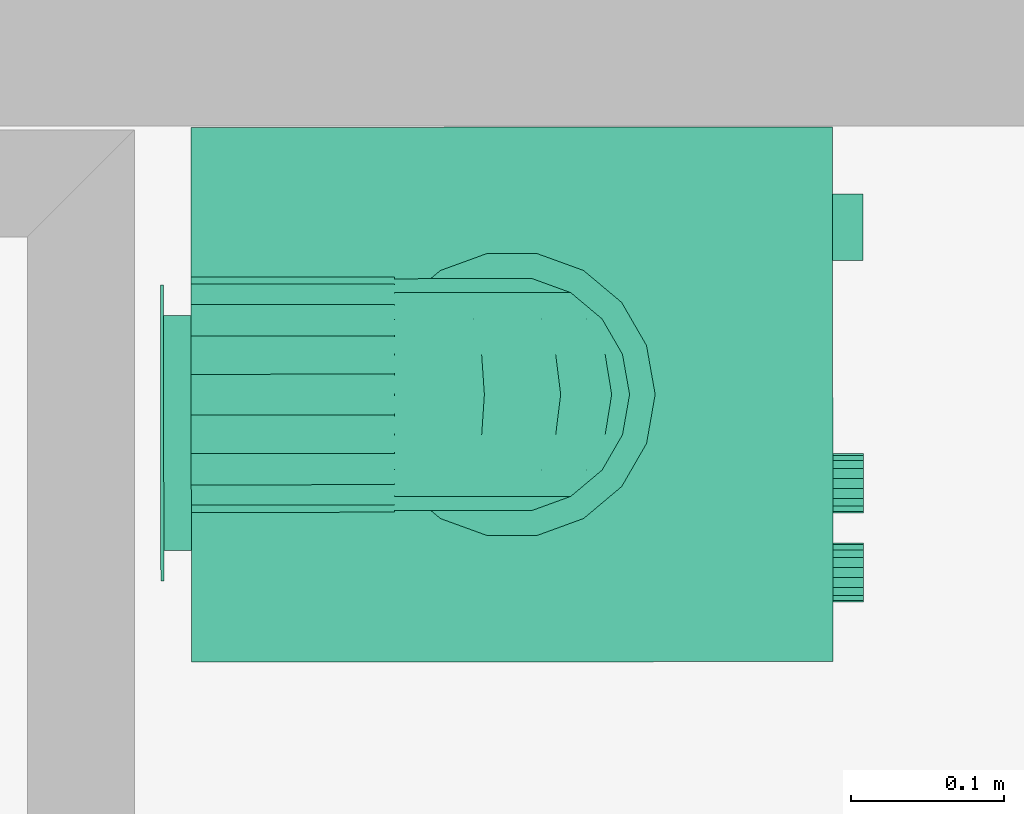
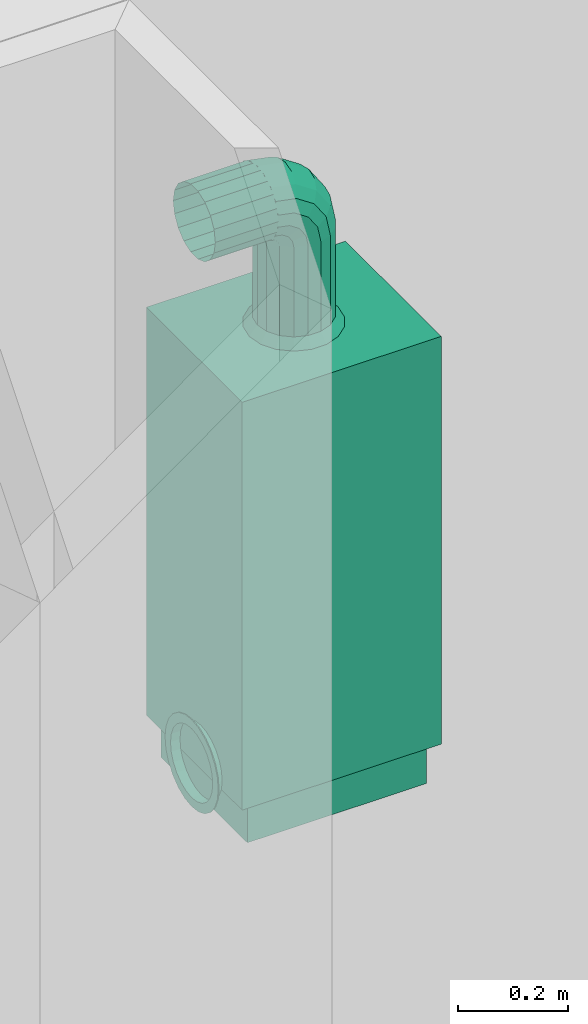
# One storey, part 124 of 171: 1 distribution element.
"""IFC2X3 building model written with IfcOpenShell, lengths in millimetres."""

from ifc_helpers import new_model, entity, si_unit, converted_unit, derived_unit, money_unit, direction, frame, origin_with_axes, place, context, subcontext, project, spatial, open_shell, faceted_brep, surface_model, source, transform, mapped, type_object, element, save


model = new_model("IFC2X3")

# Units and contexts
model_context = context("Model", 3, precision=0.01, world=origin_with_axes(), true_north=direction((0.0, 1.0)))
body_context = subcontext(model_context, "Body", "Model", "MODEL_VIEW")
ifc_project = project(units=[si_unit("LENGTHUNIT", "METRE", prefix="MILLI"), si_unit("AREAUNIT", "SQUARE_METRE"), si_unit("VOLUMEUNIT", "CUBIC_METRE"), converted_unit("PLANEANGLEUNIT", "DEGREE", entity("IfcPlaneAngleMeasure", 0.0174532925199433), si_unit("PLANEANGLEUNIT", "RADIAN"), dimensions=[0, 0, 0, 0, 0, 0, 0]), money_unit("USD"), converted_unit("TIMEUNIT", "Year", entity("IfcTimeMeasure", 31557600.0), si_unit("TIMEUNIT", "SECOND"), dimensions=[0, 0, 1, 0, 0, 0, 0]), si_unit("MASSUNIT", "GRAM", prefix="KILO"), si_unit("THERMODYNAMICTEMPERATUREUNIT", "DEGREE_CELSIUS"), si_unit("LUMINOUSINTENSITYUNIT", "LUMEN"), si_unit("ENERGYUNIT", "JOULE", prefix="MEGA"), derived_unit("THERMALCONDUCTANCEUNIT", [(si_unit("POWERUNIT", "WATT"), 1), (si_unit("LENGTHUNIT", "METRE"), -1), (si_unit("THERMODYNAMICTEMPERATUREUNIT", "KELVIN"), -1)]), derived_unit("SPECIFICHEATCAPACITYUNIT", [(si_unit("ENERGYUNIT", "JOULE"), 1), (si_unit("MASSUNIT", "GRAM", prefix="KILO"), -1), (si_unit("THERMODYNAMICTEMPERATUREUNIT", "KELVIN"), -1)]), derived_unit("MASSDENSITYUNIT", [(si_unit("MASSUNIT", "GRAM", prefix="KILO"), 1), (si_unit("VOLUMEUNIT", "CUBIC_METRE"), -1)])], contexts=[model_context])

# Site, building, storey
site_placement = place(None, origin_with_axes())
site = spatial("IfcSite", under=ifc_project, at=site_placement, Name="Site", CompositionType="ELEMENT")
building_placement = place(site_placement, origin_with_axes())
building = spatial("IfcBuilding", under=site, at=building_placement, Name="Bâtiment", CompositionType="ELEMENT")
storey_placement = place(building_placement, frame((0.0, 0.0, 3000.0), z_axis=(0.0, 0.0, 1.0), x_axis=(1.0, 0.0, 0.0)))
storey = spatial("IfcBuildingStorey", under=building, at=storey_placement, Name="rdc", CompositionType="ELEMENT", Elevation=3000.0)

# Distribution element
distribution_element_type = type_object("IfcDistributionElementType", Name="Chaudière à gaz 27")
shared_shape = source(origin_with_axes(), body_context, "Body", "SurfaceModel", [
    surface_model("IfcShellBasedSurfaceModel", [(-200.0, 420.0, 34.90909090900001), (-200.0, 438.0, 34.90909090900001), (-180.0709335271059, 438.0, 37.53280228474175), (-180.0709335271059, 420.0, 37.53280228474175), (-219.9290664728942, 420.0, 37.53280228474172), (-219.9290664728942, 438.0, 37.53280228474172), (-161.5, 438.0, 45.22513481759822), (-161.5, 420.0, 45.22513481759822), (-238.5000000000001, 420.0, 45.22513481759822), (-238.5000000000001, 438.0, 45.22513481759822), (-145.5527778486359, 438.0, 57.46186875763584), (-145.5527778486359, 420.0, 57.46186875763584), (-254.4472221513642, 420.0, 57.46186875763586), (-254.4472221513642, 438.0, 57.46186875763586), (-133.3160439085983, 438.0, 73.409090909), (-133.3160439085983, 420.0, 73.409090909), (-266.6839560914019, 420.0, 73.40909090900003), (-266.6839560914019, 438.0, 73.40909090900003), (-125.6237113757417, 438.0, 91.9800244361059), (-125.6237113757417, 420.0, 91.9800244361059), (-274.3762886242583, 420.0, 91.98002443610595), (-274.3762886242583, 438.0, 91.98002443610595), (-123.0, 438.0, 111.909090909), (-123.0, 420.0, 111.909090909), (-277.0, 420.0, 111.909090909), (-277.0, 438.0, 111.909090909), (-125.6237113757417, 438.0, 131.8381573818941), (-125.6237113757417, 420.0, 131.8381573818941), (-274.3762886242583, 420.0, 131.8381573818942), (-274.3762886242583, 438.0, 131.8381573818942), (-133.3160439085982, 438.0, 150.409090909), (-133.3160439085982, 420.0, 150.409090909), (-266.6839560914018, 420.0, 150.4090909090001), (-266.6839560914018, 438.0, 150.4090909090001), (-145.5527778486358, 438.0, 166.3563130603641), (-145.5527778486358, 420.0, 166.3563130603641), (-254.4472221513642, 420.0, 166.3563130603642), (-254.4472221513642, 438.0, 166.3563130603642), (-161.5, 438.0, 178.5930470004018), (-161.5, 420.0, 178.5930470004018), (-238.5, 420.0, 178.5930470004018), (-238.5, 438.0, 178.5930470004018), (-180.0709335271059, 438.0, 186.2853795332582), (-180.0709335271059, 420.0, 186.2853795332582), (-219.929066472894, 420.0, 186.2853795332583), (-219.929066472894, 438.0, 186.2853795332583), (-200.0, 438.0, 188.909090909), (-200.0, 420.0, 188.909090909)], [open_shell([[[0, 1, 2, 3]], [[4, 5, 1, 0]], [[3, 2, 6, 7]], [[8, 9, 5, 4]], [[7, 6, 10, 11]], [[12, 13, 9, 8]], [[11, 10, 14, 15]], [[16, 17, 13, 12]], [[15, 14, 18, 19]], [[20, 21, 17, 16]], [[19, 18, 22, 23]], [[24, 25, 21, 20]], [[23, 22, 26, 27]], [[28, 29, 25, 24]], [[27, 26, 30, 31]], [[32, 33, 29, 28]], [[31, 30, 34, 35]], [[36, 37, 33, 32]], [[35, 34, 38, 39]], [[40, 41, 37, 36]], [[39, 38, 42, 43]], [[44, 45, 41, 40]], [[43, 42, 46, 47]], [[47, 46, 45, 44]]])]),
    faceted_brep([(-200.0, 438.0, 14.909090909), (-200.0, 440.0, 14.909090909), (-174.8945526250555, 440.0, 18.21428575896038), (-174.8945526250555, 438.0, 18.21428575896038), (-225.1054473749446, 438.0, 18.21428575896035), (-225.1054473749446, 440.0, 18.21428575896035), (-248.5000000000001, 440.0, 27.90462674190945), (-268.5893577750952, 440.0, 43.31973313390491), (-284.0044641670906, 440.0, 63.40909090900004), (-293.6948051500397, 440.0, 86.80364353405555), (-297.0000000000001, 440.0, 111.909090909), (-293.6948051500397, 440.0, 137.0145382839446), (-284.0044641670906, 440.0, 160.4090909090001), (-268.5893577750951, 440.0, 180.4984486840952), (-248.5, 440.0, 195.9135550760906), (-225.1054473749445, 440.0, 205.6038960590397), (-199.9999999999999, 440.0, 208.909090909), (-174.8945526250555, 440.0, 205.6038960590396), (-151.5, 440.0, 195.9135550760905), (-131.4106422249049, 440.0, 180.4984486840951), (-115.9955358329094, 440.0, 160.409090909), (-106.3051948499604, 440.0, 137.0145382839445), (-103.0, 440.0, 111.909090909), (-106.3051948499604, 440.0, 86.80364353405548), (-115.9955358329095, 440.0, 63.40909090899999), (-131.4106422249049, 440.0, 43.31973313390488), (-151.5, 440.0, 27.90462674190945), (-200.0, 440.0, 34.90909090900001), (-180.0709335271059, 440.0, 37.53280228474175), (-161.5, 440.0, 45.22513481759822), (-145.5527778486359, 440.0, 57.46186875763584), (-133.3160439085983, 440.0, 73.409090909), (-125.6237113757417, 440.0, 91.9800244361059), (-123.0, 440.0, 111.909090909), (-125.6237113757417, 440.0, 131.8381573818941), (-133.3160439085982, 440.0, 150.409090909), (-145.5527778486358, 440.0, 166.3563130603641), (-161.5, 440.0, 178.5930470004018), (-180.0709335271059, 440.0, 186.2853795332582), (-200.0, 440.0, 188.909090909), (-219.929066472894, 440.0, 186.2853795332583), (-238.5, 440.0, 178.5930470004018), (-254.4472221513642, 440.0, 166.3563130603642), (-266.6839560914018, 440.0, 150.4090909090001), (-274.3762886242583, 440.0, 131.8381573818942), (-277.0, 440.0, 111.909090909), (-274.3762886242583, 440.0, 91.98002443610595), (-266.6839560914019, 440.0, 73.40909090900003), (-254.4472221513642, 440.0, 57.46186875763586), (-238.5000000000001, 440.0, 45.22513481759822), (-219.9290664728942, 440.0, 37.53280228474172), (-151.5, 438.0, 27.90462674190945), (-131.4106422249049, 438.0, 43.31973313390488), (-115.9955358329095, 438.0, 63.40909090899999), (-106.3051948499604, 438.0, 86.80364353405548), (-103.0, 438.0, 111.909090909), (-106.3051948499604, 438.0, 137.0145382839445), (-115.9955358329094, 438.0, 160.409090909), (-131.4106422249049, 438.0, 180.4984486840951), (-151.5, 438.0, 195.9135550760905), (-174.8945526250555, 438.0, 205.6038960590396), (-199.9999999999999, 438.0, 208.909090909), (-225.1054473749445, 438.0, 205.6038960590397), (-248.5, 438.0, 195.9135550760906), (-268.5893577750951, 438.0, 180.4984486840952), (-284.0044641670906, 438.0, 160.4090909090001), (-293.6948051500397, 438.0, 137.0145382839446), (-297.0000000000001, 438.0, 111.909090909), (-293.6948051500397, 438.0, 86.80364353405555), (-284.0044641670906, 438.0, 63.40909090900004), (-268.5893577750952, 438.0, 43.31973313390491), (-248.5000000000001, 438.0, 27.90462674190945), (-200.0, 438.0, 34.90909090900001), (-219.9290664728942, 438.0, 37.53280228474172), (-238.5000000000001, 438.0, 45.22513481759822), (-254.4472221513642, 438.0, 57.46186875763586), (-266.6839560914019, 438.0, 73.40909090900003), (-274.3762886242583, 438.0, 91.98002443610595), (-277.0, 438.0, 111.909090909), (-274.3762886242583, 438.0, 131.8381573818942), (-266.6839560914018, 438.0, 150.4090909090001), (-254.4472221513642, 438.0, 166.3563130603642), (-238.5, 438.0, 178.5930470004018), (-219.929066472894, 438.0, 186.2853795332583), (-200.0, 438.0, 188.909090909), (-180.0709335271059, 438.0, 186.2853795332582), (-161.5, 438.0, 178.5930470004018), (-145.5527778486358, 438.0, 166.3563130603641), (-133.3160439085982, 438.0, 150.409090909), (-125.6237113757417, 438.0, 131.8381573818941), (-123.0, 438.0, 111.909090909), (-125.6237113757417, 438.0, 91.9800244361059), (-133.3160439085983, 438.0, 73.409090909), (-145.5527778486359, 438.0, 57.46186875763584), (-161.5, 438.0, 45.22513481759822), (-180.0709335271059, 438.0, 37.53280228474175)], [[[0, 1, 2, 3]], [[4, 5, 1, 0]], [[1, 5, 6, 7, 8, 9, 10, 11, 12, 13, 14, 15, 16, 17, 18, 19, 20, 21, 22, 23, 24, 25, 26, 2], [27, 28, 29, 30, 31, 32, 33, 34, 35, 36, 37, 38, 39, 40, 41, 42, 43, 44, 45, 46, 47, 48, 49, 50]], [[3, 2, 26, 51]], [[0, 3, 51, 52, 53, 54, 55, 56, 57, 58, 59, 60, 61, 62, 63, 64, 65, 66, 67, 68, 69, 70, 71, 4], [72, 73, 74, 75, 76, 77, 78, 79, 80, 81, 82, 83, 84, 85, 86, 87, 88, 89, 90, 91, 92, 93, 94, 95]], [[71, 6, 5, 4]], [[70, 7, 6, 71]], [[69, 8, 7, 70]], [[68, 9, 8, 69]], [[67, 10, 9, 68]], [[66, 11, 10, 67]], [[65, 12, 11, 66]], [[64, 13, 12, 65]], [[63, 14, 13, 64]], [[62, 15, 14, 63]], [[61, 16, 15, 62]], [[60, 17, 16, 61]], [[59, 18, 17, 60]], [[58, 19, 18, 59]], [[57, 20, 19, 58]], [[56, 21, 20, 57]], [[55, 22, 21, 56]], [[54, 23, 22, 55]], [[53, 24, 23, 54]], [[52, 25, 24, 53]], [[51, 26, 25, 52]], [[95, 28, 27, 72]], [[94, 29, 28, 95]], [[93, 30, 29, 94]], [[92, 31, 30, 93]], [[91, 32, 31, 92]], [[90, 33, 32, 91]], [[89, 34, 33, 90]], [[88, 35, 34, 89]], [[87, 36, 35, 88]], [[86, 37, 36, 87]], [[85, 38, 37, 86]], [[84, 39, 38, 85]], [[83, 40, 39, 84]], [[82, 41, 40, 83]], [[81, 42, 41, 82]], [[80, 43, 42, 81]], [[79, 44, 43, 80]], [[78, 45, 44, 79]], [[77, 46, 45, 78]], [[76, 47, 46, 77]], [[75, 48, 47, 76]], [[74, 49, 48, 75]], [[73, 50, 49, 74]], [[72, 27, 50, 73]]]),
    faceted_brep([(-332.5, 21.0, 0.0), (-332.5, 399.0, 0.0), (-17.5, 399.0, 0.0), (-17.5, 21.0, 0.0), (-332.5, 21.0, 90.9090909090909), (-332.5, 399.0, 90.9090909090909), (-17.5, 399.0, 90.9090909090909), (-17.5, 21.0, 90.9090909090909)], [[[0, 1, 2, 3]], [[0, 4, 5, 1]], [[1, 5, 6, 2]], [[2, 6, 7, 3]], [[3, 7, 4, 0]], [[7, 6, 5, 4]]]),
    faceted_brep([(0.0, 420.0, 90.9090909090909), (-350.0, 420.0, 90.90909090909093), (-349.9999999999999, 420.0, 1000.0), (0.0, 420.0, 1000.0), (0.0, 0.0, 90.9090909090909), (-350.0, 0.0, 90.90909090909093), (-349.9999999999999, 0.0, 818.1818181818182), (-349.9999999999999, 21.0, 818.1818181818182), (-349.9999999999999, 21.0, 1000.0), (0.0, 21.0, 1000.0), (0.0, 21.0, 818.1818181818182), (0.0, 0.0, 818.1818181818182)], [[[0, 1, 2, 3]], [[4, 5, 1, 0]], [[1, 5, 6, 7, 8, 2]], [[3, 2, 8, 9]], [[0, 3, 9, 10, 11, 4]], [[11, 6, 5, 4]], [[10, 7, 6, 11]], [[9, 8, 7, 10]]]),
    faceted_brep([(-350.0, 0.0, 818.1818181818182), (-350.0, 21.0, 818.1818181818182), (0.0, 21.0, 818.1818181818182), (0.0, 0.0, 818.1818181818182), (-350.0, 0.0, 1000.0), (-350.0, 21.0, 1000.0), (0.0, 21.0, 1000.0), (0.0, 0.0, 1000.0)], [[[0, 1, 2, 3]], [[0, 4, 5, 1]], [[1, 5, 6, 2]], [[2, 6, 7, 3]], [[3, 7, 4, 0]], [[7, 6, 5, 4]]]),
    faceted_brep([(-251.6051342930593, 0.0, 902.4405174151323), (-252.7777777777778, 0.0, 909.0909090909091), (-251.6051342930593, 0.0, 915.741300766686), (-248.2286419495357, 0.0, 921.5895570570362), (-243.0555555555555, 0.0, 925.9302919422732), (-236.709825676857, 0.0, 928.2399487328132), (-229.9568409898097, 0.0, 928.2399487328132), (-223.6111111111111, 0.0, 925.9302919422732), (-218.438024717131, 0.0, 921.5895570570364), (-215.0615323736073, 0.0, 915.741300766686), (-213.8888888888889, 0.0, 909.0909090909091), (-215.0615323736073, 0.0, 902.4405174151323), (-218.438024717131, 0.0, 896.5922611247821), (-223.6111111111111, 0.0, 892.2515262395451), (-229.9568409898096, 0.0, 889.9418694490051), (-236.709825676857, 0.0, 889.9418694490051), (-243.0555555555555, 0.0, 892.2515262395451), (-248.2286419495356, 0.0, 896.592261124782), (-251.6051342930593, -19.99999999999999, 902.4405174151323), (-252.7777777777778, -19.99999999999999, 909.0909090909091), (-251.6051342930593, -19.99999999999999, 915.741300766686), (-248.2286419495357, -19.99999999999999, 921.5895570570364), (-243.0555555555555, -19.99999999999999, 925.9302919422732), (-236.709825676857, -19.99999999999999, 928.2399487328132), (-229.9568409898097, -19.99999999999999, 928.2399487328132), (-223.6111111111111, -19.99999999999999, 925.9302919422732), (-218.438024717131, -19.99999999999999, 921.5895570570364), (-215.0615323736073, -19.99999999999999, 915.741300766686), (-213.8888888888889, -19.99999999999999, 909.0909090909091), (-215.0615323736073, -19.99999999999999, 902.4405174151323), (-218.438024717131, -19.99999999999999, 896.5922611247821), (-223.6111111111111, -19.99999999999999, 892.2515262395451), (-229.9568409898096, -19.99999999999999, 889.9418694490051), (-236.709825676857, -19.99999999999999, 889.9418694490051), (-243.0555555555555, -19.99999999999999, 892.2515262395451), (-248.2286419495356, -19.99999999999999, 896.592261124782)], [[[0, 1, 2, 3, 4, 5, 6, 7, 8, 9, 10, 11, 12, 13, 14, 15, 16, 17]], [[0, 18, 19, 1]], [[1, 19, 20, 2]], [[2, 20, 21, 3]], [[3, 21, 22, 4]], [[4, 22, 23, 5]], [[5, 23, 24, 6]], [[6, 24, 25, 7]], [[7, 25, 26, 8]], [[8, 26, 27, 9]], [[9, 27, 28, 10]], [[10, 28, 29, 11]], [[11, 29, 30, 12]], [[12, 30, 31, 13]], [[13, 31, 32, 14]], [[14, 32, 33, 15]], [[15, 33, 34, 16]], [[16, 34, 35, 17]], [[17, 35, 18, 0]], [[18, 35, 34, 33, 32, 31, 30, 29, 28, 27, 26, 25, 24, 23, 22, 21, 20, 19]]]),
    faceted_brep([(-309.9384676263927, 0.0, 902.4405174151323), (-311.1111111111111, 0.0, 909.0909090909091), (-309.9384676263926, 0.0, 915.741300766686), (-306.561975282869, 0.0, 921.5895570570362), (-301.3888888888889, 0.0, 925.9302919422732), (-295.0431590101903, 0.0, 928.2399487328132), (-288.290174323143, 0.0, 928.2399487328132), (-281.9444444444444, 0.0, 925.9302919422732), (-276.7713580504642, 0.0, 921.5895570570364), (-273.3948657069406, 0.0, 915.741300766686), (-272.2222222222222, 0.0, 909.0909090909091), (-273.3948657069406, 0.0, 902.4405174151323), (-276.7713580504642, 0.0, 896.5922611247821), (-281.9444444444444, 0.0, 892.2515262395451), (-288.290174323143, 0.0, 889.9418694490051), (-295.0431590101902, 0.0, 889.9418694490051), (-301.3888888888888, 0.0, 892.2515262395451), (-306.561975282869, 0.0, 896.592261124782), (-309.9384676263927, -19.99999999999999, 902.4405174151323), (-311.1111111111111, -19.99999999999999, 909.0909090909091), (-309.9384676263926, -19.99999999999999, 915.741300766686), (-306.561975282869, -19.99999999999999, 921.5895570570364), (-301.3888888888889, -19.99999999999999, 925.9302919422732), (-295.0431590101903, -19.99999999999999, 928.2399487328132), (-288.290174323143, -19.99999999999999, 928.2399487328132), (-281.9444444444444, -19.99999999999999, 925.9302919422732), (-276.7713580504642, -19.99999999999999, 921.5895570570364), (-273.3948657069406, -19.99999999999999, 915.741300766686), (-272.2222222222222, -19.99999999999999, 909.0909090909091), (-273.3948657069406, -19.99999999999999, 902.4405174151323), (-276.7713580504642, -19.99999999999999, 896.5922611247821), (-281.9444444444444, -19.99999999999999, 892.2515262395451), (-288.290174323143, -19.99999999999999, 889.9418694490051), (-295.0431590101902, -19.99999999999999, 889.9418694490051), (-301.3888888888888, -19.99999999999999, 892.2515262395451), (-306.561975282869, -19.99999999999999, 896.592261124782)], [[[0, 1, 2, 3, 4, 5, 6, 7, 8, 9, 10, 11, 12, 13, 14, 15, 16, 17]], [[0, 18, 19, 1]], [[1, 19, 20, 2]], [[2, 20, 21, 3]], [[3, 21, 22, 4]], [[4, 22, 23, 5]], [[5, 23, 24, 6]], [[6, 24, 25, 7]], [[7, 25, 26, 8]], [[8, 26, 27, 9]], [[9, 27, 28, 10]], [[10, 28, 29, 11]], [[11, 29, 30, 12]], [[12, 30, 31, 13]], [[13, 31, 32, 14]], [[14, 32, 33, 15]], [[15, 33, 34, 16]], [[16, 34, 35, 17]], [[17, 35, 18, 0]], [[18, 35, 34, 33, 32, 31, 30, 29, 28, 27, 26, 25, 24, 23, 22, 21, 20, 19]]]),
    faceted_brep([(-87.5, 0.0, 878.7878787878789), (-87.5, 0.0, 939.3939393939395), (-43.75, 0.0, 939.3939393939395), (-43.75, 0.0, 878.7878787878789), (-87.5, -20.0, 878.7878787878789), (-87.5, -19.99999999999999, 939.3939393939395), (-43.75, -19.99999999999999, 939.3939393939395), (-43.75, -20.0, 878.7878787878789)], [[[0, 1, 2, 3]], [[0, 4, 5, 1]], [[1, 5, 6, 2]], [[2, 6, 7, 3]], [[3, 7, 4, 0]], [[7, 6, 5, 4]]]),
    surface_model("IfcShellBasedSurfaceModel", [(-148.6644489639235, 282.356331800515, 1220.0), (-148.6644489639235, 282.356331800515, 1020.0), (-175.0, 287.0, 1020.0), (-175.0, 287.0, 1220.0), (-125.5053540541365, 268.9854221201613, 1220.0), (-125.5053540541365, 268.9854221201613, 1020.0), (-142.9356115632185, 298.0961831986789, 1000.0), (-175.0, 303.7499999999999, 1000.0), (-201.3355510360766, 282.356331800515, 1020.0), (-201.3355510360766, 282.356331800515, 1220.0), (-108.3160439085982, 248.5, 1220.0), (-108.3160439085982, 248.5, 1020.0), (-114.7386615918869, 281.8166665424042, 1000.0), (-207.0643884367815, 298.0961831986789, 1000.0), (-224.4946459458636, 268.9854221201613, 1020.0), (-224.4946459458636, 268.9854221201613, 1220.0), (-99.16980301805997, 223.3709096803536, 1220.0), (-99.16980301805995, 223.3709096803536, 1020.0), (-93.81011839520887, 256.8749999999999, 1000.0), (-235.2613384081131, 281.8166665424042, 1000.0), (-241.6839560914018, 248.4999999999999, 1020.0), (-241.6839560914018, 248.4999999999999, 1220.0), (-99.16980301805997, 196.6290903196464, 1220.0), (-99.16980301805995, 196.6290903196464, 1020.0), (-82.6742731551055, 226.2795166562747, 1000.0), (-256.1898816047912, 256.8749999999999, 1000.0), (-250.83019698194, 223.3709096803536, 1020.0), (-250.8301969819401, 223.3709096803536, 1220.0), (-108.3160439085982, 171.5, 1220.0), (-108.3160439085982, 171.5, 1020.0), (-82.67427315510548, 193.7204833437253, 1000.0), (-267.3257268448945, 226.2795166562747, 1000.0), (-250.83019698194, 196.6290903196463, 1020.0), (-250.83019698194, 196.6290903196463, 1220.0), (-125.5053540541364, 151.0145778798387, 1220.0), (-125.5053540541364, 151.0145778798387, 1020.0), (-93.81011839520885, 163.125, 1000.0), (-267.3257268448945, 193.7204833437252, 1000.0), (-241.6839560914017, 171.4999999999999, 1020.0), (-241.6839560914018, 171.4999999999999, 1220.0), (-148.6644489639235, 137.643668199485, 1220.0), (-148.6644489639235, 137.643668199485, 1020.0), (-114.7386615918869, 138.1833334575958, 1000.0), (-256.1898816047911, 163.1249999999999, 1000.0), (-224.4946459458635, 151.0145778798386, 1020.0), (-224.4946459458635, 151.0145778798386, 1220.0), (-175.0, 133.0, 1220.0), (-175.0, 133.0, 1020.0), (-142.9356115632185, 121.9038168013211, 1000.0), (-235.261338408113, 138.1833334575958, 1000.0), (-201.3355510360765, 137.643668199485, 1020.0), (-201.3355510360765, 137.643668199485, 1220.0), (-175.0, 116.25, 1000.0), (-207.0643884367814, 121.9038168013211, 1000.0)], [open_shell([[[0, 1, 2, 3]], [[4, 5, 1, 0]], [[1, 6, 7, 2]], [[3, 2, 8, 9]], [[10, 11, 5, 4]], [[5, 12, 6, 1]], [[2, 7, 13, 8]], [[9, 8, 14, 15]], [[16, 17, 11, 10]], [[11, 18, 12, 5]], [[8, 13, 19, 14]], [[15, 14, 20, 21]], [[22, 23, 17, 16]], [[17, 24, 18, 11]], [[14, 19, 25, 20]], [[21, 20, 26, 27]], [[28, 29, 23, 22]], [[23, 30, 24, 17]], [[20, 25, 31, 26]], [[27, 26, 32, 33]], [[34, 35, 29, 28]], [[29, 36, 30, 23]], [[26, 31, 37, 32]], [[33, 32, 38, 39]], [[40, 41, 35, 34]], [[35, 42, 36, 29]], [[32, 37, 43, 38]], [[39, 38, 44, 45]], [[46, 47, 41, 40]], [[41, 48, 42, 35]], [[38, 43, 49, 44]], [[45, 44, 50, 51]], [[51, 50, 47, 46]], [[47, 52, 48, 41]], [[44, 49, 53, 50]], [[50, 53, 52, 47]]])]),
    faceted_brep([(-250.83019698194, 196.6290903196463, 1220.0), (-250.83019698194, 203.5081662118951, 1254.583449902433), (-250.83019698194, 228.2143857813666, 1244.349798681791), (-250.83019698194, 223.3709096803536, 1220.0), (-241.6839560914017, 171.4999999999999, 1220.0), (-241.6839560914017, 180.2919139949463, 1264.199936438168), (-250.83019698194, 223.0981169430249, 1283.901883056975), (-250.83019698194, 242.0074387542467, 1264.992561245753), (-241.6839560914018, 248.4999999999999, 1220.0), (-241.6839560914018, 251.4306379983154, 1234.733312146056), (-224.4946459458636, 268.9854221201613, 1220.0), (-201.3355510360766, 282.356331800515, 1220.0), (-175.0, 287.0, 1220.0), (-148.6644489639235, 282.356331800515, 1220.0), (-125.5053540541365, 268.9854221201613, 1220.0), (-108.3160439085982, 248.5, 1220.0), (-99.16980301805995, 223.3709096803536, 1220.0), (-99.16980301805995, 196.6290903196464, 1220.0), (-108.3160439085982, 171.5, 1220.0), (-125.5053540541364, 151.0145778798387, 1220.0), (-148.6644489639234, 137.643668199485, 1220.0), (-175.0, 132.9999999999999, 1220.0), (-201.3355510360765, 137.643668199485, 1220.0), (-224.4946459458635, 151.0145778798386, 1220.0), (-224.4946459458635, 161.3658517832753, 1272.039368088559), (-241.6839560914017, 205.3291667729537, 1301.670833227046), (-250.83019698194, 252.4165500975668, 1303.491833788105), (-250.83019698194, 262.6502013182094, 1278.785614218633), (-241.6839560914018, 259.7763889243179, 1247.223611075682), (-224.4946459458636, 270.3567002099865, 1226.893880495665), (-201.3355510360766, 282.7098099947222, 1221.777054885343), (-148.6644489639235, 282.7098099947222, 1221.777054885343), (-125.5053540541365, 270.3567002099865, 1226.893880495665), (-108.3160439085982, 251.4306379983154, 1234.733312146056), (-99.16980301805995, 228.2143857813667, 1244.349798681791), (-99.16980301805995, 203.5081662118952, 1254.583449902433), (-108.3160439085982, 180.2919139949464, 1264.199936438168), (-125.5053540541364, 161.3658517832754, 1272.039368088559), (-148.6644489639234, 149.0127419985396, 1277.15619369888), (-175.0, 144.7225519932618, 1278.933248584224), (-201.3355510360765, 149.0127419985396, 1277.15619369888), (-224.4946459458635, 190.8437858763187, 1316.156214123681), (-241.6839560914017, 242.8000635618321, 1326.708086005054), (-250.83019698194, 287.0000000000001, 1310.370909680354), (-250.83019698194, 287.0000000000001, 1283.629090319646), (-241.6839560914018, 272.266687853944, 1255.569362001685), (-224.4946459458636, 274.2617698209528, 1232.738230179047), (-201.3355510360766, 283.7164307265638, 1223.283569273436), (-148.6644489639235, 283.7164307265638, 1223.283569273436), (-125.5053540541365, 274.2617698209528, 1232.738230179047), (-108.3160439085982, 259.7763889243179, 1247.223611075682), (-99.16980301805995, 242.0074387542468, 1264.992561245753), (-99.16980301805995, 223.098116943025, 1283.901883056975), (-108.3160439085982, 205.3291667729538, 1301.670833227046), (-125.5053540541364, 190.8437858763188, 1316.156214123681), (-148.6644489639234, 181.3891249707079, 1325.610875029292), (-175.0, 178.1055556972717, 1328.894444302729), (-201.3355510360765, 181.3891249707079, 1325.610875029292), (-224.4946459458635, 234.9606319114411, 1345.634148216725), (-241.6839560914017, 287.0000000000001, 1335.5), (-241.6839560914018, 287.0, 1258.5), (-224.4946459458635, 287.0000000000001, 1355.985422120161), (-201.3355510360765, 287.0000000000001, 1369.356331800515), (-175.0, 287.0000000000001, 1374.0), (-148.6644489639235, 287.0000000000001, 1369.356331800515), (-125.5053540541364, 287.0000000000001, 1355.985422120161), (-108.3160439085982, 287.0000000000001, 1335.5), (-99.16980301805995, 287.0000000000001, 1310.370909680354), (-99.16980301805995, 287.0000000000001, 1283.629090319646), (-108.3160439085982, 287.0, 1258.5), (-125.5053540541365, 287.0, 1238.014577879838), (-148.6644489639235, 287.0, 1224.643668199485), (-201.3355510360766, 287.0, 1224.643668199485), (-224.4946459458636, 287.0, 1238.014577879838), (-224.4946459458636, 280.1061195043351, 1236.643299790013), (-201.3355510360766, 285.2229451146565, 1224.290190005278), (-148.6644489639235, 285.2229451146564, 1224.290190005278), (-125.5053540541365, 280.1061195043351, 1236.643299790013), (-108.3160439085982, 272.266687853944, 1255.569362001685), (-99.16980301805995, 262.6502013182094, 1278.785614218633), (-99.16980301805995, 252.4165500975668, 1303.491833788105), (-108.3160439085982, 242.8000635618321, 1326.708086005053), (-125.5053540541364, 234.9606319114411, 1345.634148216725), (-148.6644489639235, 229.8438063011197, 1357.98725800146), (-175.0, 228.0667514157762, 1362.277448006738), (-201.3355510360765, 229.8438063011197, 1357.98725800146)], [[[0, 1, 2, 3]], [[1, 0, 4, 5]], [[1, 6, 7, 2]], [[8, 3, 2, 9]], [[4, 0, 3, 8, 10, 11, 12, 13, 14, 15, 16, 17, 18, 19, 20, 21, 22, 23]], [[5, 4, 23, 24]], [[6, 1, 5, 25]], [[7, 6, 26, 27]], [[2, 7, 28, 9]], [[29, 10, 8, 9]], [[10, 29, 30, 11]], [[11, 30, 12]], [[31, 13, 12]], [[13, 31, 32, 14]], [[33, 15, 14, 32]], [[15, 33, 34, 16]], [[35, 17, 16, 34]], [[18, 17, 35, 36]], [[37, 19, 18, 36]], [[20, 19, 37, 38]], [[39, 21, 20, 38]], [[22, 21, 39, 40]], [[24, 23, 22, 40]], [[25, 5, 24, 41]], [[6, 25, 42, 26]], [[27, 26, 43, 44]], [[45, 28, 7, 27]], [[46, 29, 9, 28]], [[29, 46, 47, 30]], [[30, 47, 12]], [[48, 31, 12]], [[31, 48, 49, 32]], [[32, 49, 50, 33]], [[34, 33, 50, 51]], [[52, 35, 34, 51]], [[35, 52, 53, 36]], [[54, 37, 36, 53]], [[38, 37, 54, 55]], [[56, 39, 38, 55]], [[57, 40, 39, 56]], [[41, 24, 40, 57]], [[42, 25, 41, 58]], [[26, 42, 59, 43]], [[60, 44, 43, 59, 61, 62, 63, 64, 65, 66, 67, 68, 69, 70, 71, 12, 72, 73]], [[45, 27, 44, 60]], [[28, 45, 74, 46]], [[46, 74, 75, 47]], [[47, 75, 12]], [[76, 48, 12]], [[48, 76, 77, 49]], [[49, 77, 78, 50]], [[50, 78, 79, 51]], [[52, 51, 79, 80]], [[53, 52, 80, 81]], [[82, 54, 53, 81]], [[55, 54, 82, 83]], [[56, 55, 83, 84]], [[85, 57, 56, 84]], [[58, 41, 57, 85]], [[59, 42, 58, 61]], [[61, 58, 85, 62]], [[62, 85, 84, 63]], [[84, 83, 64, 63]], [[82, 65, 64, 83]], [[65, 82, 81, 66]], [[81, 80, 67, 66]], [[80, 79, 68, 67]], [[79, 78, 69, 68]], [[77, 70, 69, 78]], [[77, 76, 71, 70]], [[76, 12, 71]], [[75, 72, 12]], [[74, 73, 72, 75]], [[45, 60, 73, 74]]]),
    surface_model("IfcShellBasedSurfaceModel", [(-102.6436681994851, 420.0, 1323.335551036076), (-102.643668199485, 287.0, 1323.335551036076), (-97.99999999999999, 287.0, 1297.0), (-98.0, 420.0, 1297.0), (-116.0145778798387, 420.0, 1346.494645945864), (-116.0145778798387, 287.0, 1346.494645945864), (-102.643668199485, 287.0, 1270.664448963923), (-102.643668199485, 420.0, 1270.664448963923), (-136.5, 420.0, 1363.683956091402), (-136.5, 287.0, 1363.683956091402), (-116.0145778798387, 287.0, 1247.505354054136), (-116.0145778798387, 420.0, 1247.505354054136), (-161.6290903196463, 420.0, 1372.83019698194), (-161.6290903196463, 287.0, 1372.83019698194), (-136.5, 287.0, 1230.316043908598), (-136.5, 420.0, 1230.316043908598), (-188.3709096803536, 420.0, 1372.83019698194), (-188.3709096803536, 287.0, 1372.83019698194), (-161.6290903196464, 287.0, 1221.16980301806), (-161.6290903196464, 420.0, 1221.16980301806), (-213.5, 420.0, 1363.683956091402), (-213.5, 287.0, 1363.683956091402), (-188.3709096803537, 287.0, 1221.16980301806), (-188.3709096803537, 420.0, 1221.16980301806), (-233.9854221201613, 420.0, 1346.494645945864), (-233.9854221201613, 287.0, 1346.494645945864), (-213.5, 287.0, 1230.316043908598), (-213.5000000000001, 420.0, 1230.316043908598), (-247.356331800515, 420.0, 1323.335551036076), (-247.3563318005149, 287.0, 1323.335551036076), (-233.9854221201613, 287.0, 1247.505354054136), (-233.9854221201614, 420.0, 1247.505354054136), (-252.0, 420.0, 1297.0), (-252.0, 287.0, 1297.0), (-247.356331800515, 287.0, 1270.664448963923), (-247.356331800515, 420.0, 1270.664448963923)], [open_shell([[[0, 1, 2, 3]], [[4, 5, 1, 0]], [[3, 2, 6, 7]], [[8, 9, 5, 4]], [[7, 6, 10, 11]], [[12, 13, 9, 8]], [[11, 10, 14, 15]], [[16, 17, 13, 12]], [[15, 14, 18, 19]], [[20, 21, 17, 16]], [[19, 18, 22, 23]], [[24, 25, 21, 20]], [[23, 22, 26, 27]], [[28, 29, 25, 24]], [[27, 26, 30, 31]], [[32, 33, 29, 28]], [[31, 30, 34, 35]], [[35, 34, 33, 32]]])]),
])
distribution_element_placement = place(storey_placement, frame((2227534.368385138, -637513.847425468, 1000.0), z_axis=(0.0, 0.0, 1.0), x_axis=(-0.0006263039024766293, 0.9999998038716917, 0.0)))
element("IfcDistributionElement", 1, at=distribution_element_placement, inside=storey, type_object=distribution_element_type, Name="Obj.-003", context=body_context, shape_type="MappedRepresentation", body=[
    mapped(shared_shape, transform((0.0, 0.0, 0.0))),
])

save(model, "model.ifc")
